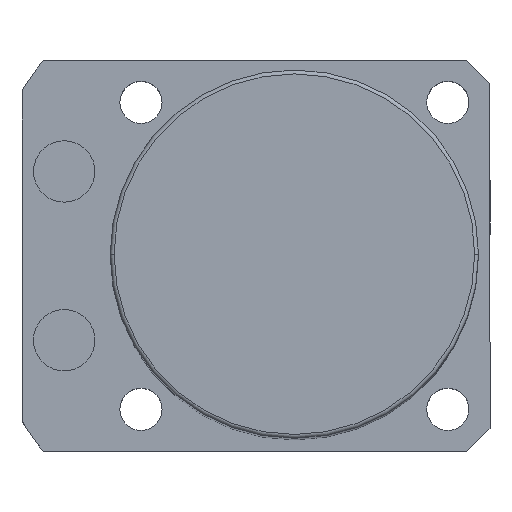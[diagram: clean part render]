
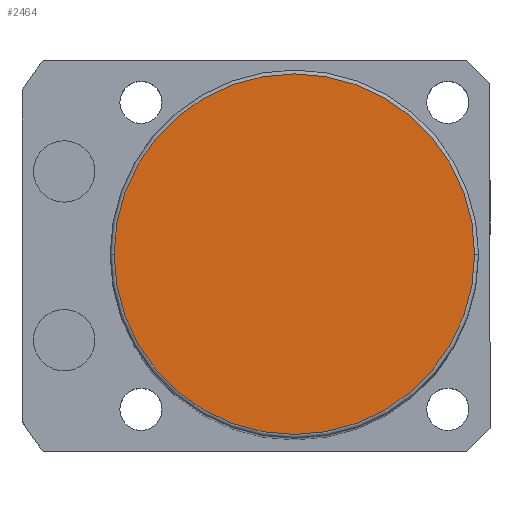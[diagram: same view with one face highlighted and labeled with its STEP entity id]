
A CAD part, top view. The second image highlights one B-rep face of the part: STEP entity #2464.
In plain terms, the highlighted planar face has unit normal (0, 0, 1).
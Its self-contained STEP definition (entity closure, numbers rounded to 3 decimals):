
#535 = CARTESIAN_POINT ( 'NONE',  ( -23.5, 0., 136. ) ) ;
#799 = CARTESIAN_POINT ( 'NONE',  ( 0., 0., 136. ) ) ;
#1493 = FACE_OUTER_BOUND ( 'NONE', #3791, .T. ) ;
#1541 = AXIS2_PLACEMENT_3D ( 'NONE', #2387, #3428, #1851 ) ;
#1762 = DIRECTION ( 'NONE',  ( 0., 0., 1. ) ) ;
#1782 = PLANE ( 'NONE',  #1853 ) ;
#1784 = DIRECTION ( 'NONE',  ( 1., 0., 0. ) ) ;
#1851 = DIRECTION ( 'NONE',  ( 1., 0., 0. ) ) ;
#1853 = AXIS2_PLACEMENT_3D ( 'NONE', #6250, #5267, #3320 ) ;
#2047 = ORIENTED_EDGE ( 'NONE', *, *, #4886, .T. ) ;
#2093 = CARTESIAN_POINT ( 'NONE',  ( 23.5, 0., 136. ) ) ;
#2116 = AXIS2_PLACEMENT_3D ( 'NONE', #799, #1762, #1784 ) ;
#2387 = CARTESIAN_POINT ( 'NONE',  ( 0., 0., 136. ) ) ;
#2464 = ADVANCED_FACE ( 'NONE', ( #1493 ), #1782, .T. ) ;
#2622 = EDGE_CURVE ( 'NONE', #3945, #4100, #3562, .T. ) ;
#3320 = DIRECTION ( 'NONE',  ( 1., 0., 0. ) ) ;
#3428 = DIRECTION ( 'NONE',  ( 0., 0., 1. ) ) ;
#3562 = CIRCLE ( 'NONE', #1541, 23.5 ) ;
#3791 = EDGE_LOOP ( 'NONE', ( #2047, #4237 ) ) ;
#3817 = CIRCLE ( 'NONE', #2116, 23.5 ) ;
#3945 = VERTEX_POINT ( 'NONE', #535 ) ;
#4100 = VERTEX_POINT ( 'NONE', #2093 ) ;
#4237 = ORIENTED_EDGE ( 'NONE', *, *, #2622, .T. ) ;
#4886 = EDGE_CURVE ( 'NONE', #4100, #3945, #3817, .T. ) ;
#5267 = DIRECTION ( 'NONE',  ( 0., 0., 1. ) ) ;
#6250 = CARTESIAN_POINT ( 'NONE',  ( 0., 0., 136. ) ) ;
